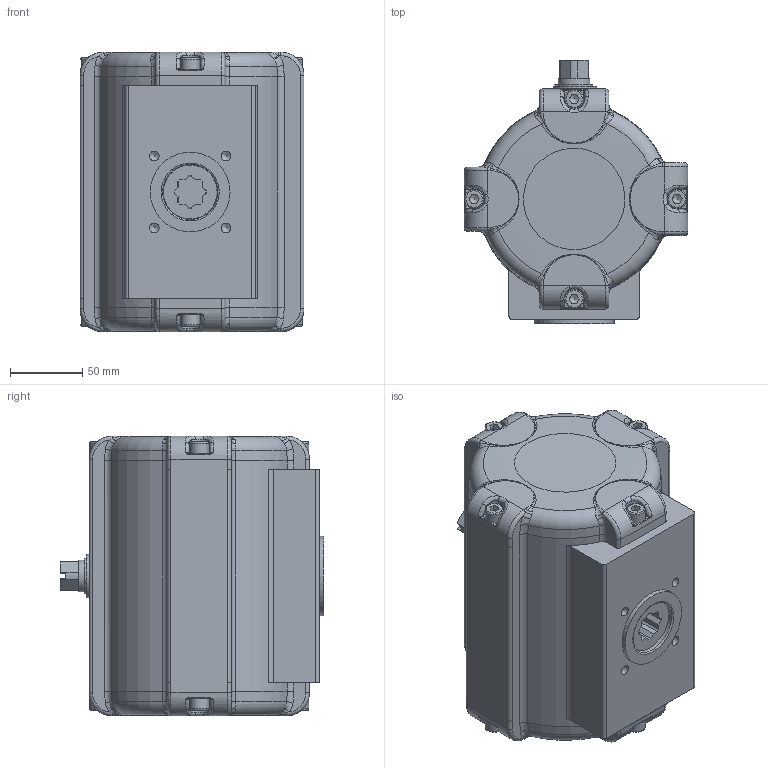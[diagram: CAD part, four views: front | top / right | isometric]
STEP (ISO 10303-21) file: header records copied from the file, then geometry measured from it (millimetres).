
FILE_DESCRIPTION((''),'2;1');
FILE_NAME('C:\Dokumente und Einstellungen\kir\Desktop\STEP IGES\SAD\SAD 25 BR03.stp','2006-12-19T09:41:48',('kir'),(''),'Autodesk Inventor 10','Autodesk Inventor 10','');
FILE_SCHEMA(('AUTOMOTIVE_DESIGN { 1 0 10303 214 1 1 1 1 }'));
Length unit declared in the file: millimetre
Products named in the file (1): ENG-039876
Bounding box: 154.5 x 182 x 193 mm (x, y, z)
Volume: 973941.5 mm3; surface area: 261516.9 mm2
Topology: 18 solids, 18 shells, 697 faces, 1716 edges, 1047 vertices
Faces by surface type: plane 223, bspline 209, cylinder 156, torus 60, cone 49
Full cylindrical faces by diameter (mm): 2 x2, 6.647 x4, 8 x8, 8.5 x8, 13 x8, 17.8 x1, 18 x1, 20 x1, 20.7 x1, 21.8 x3, 22.1 x1, 27 x1, 30 x1, 33.8 x1, 34 x1, 37.8 x3, 55 x1, 119 x1, 129.234 x2
Entity records: 37208 total; most frequent: CARTESIAN_POINT 23103, ORIENTED_EDGE 2898, DIRECTION 2694, EDGE_CURVE 1449, AXIS2_PLACEMENT_3D 1116, VERTEX_POINT 939, EDGE_LOOP 874, FACE_OUTER_BOUND 697
